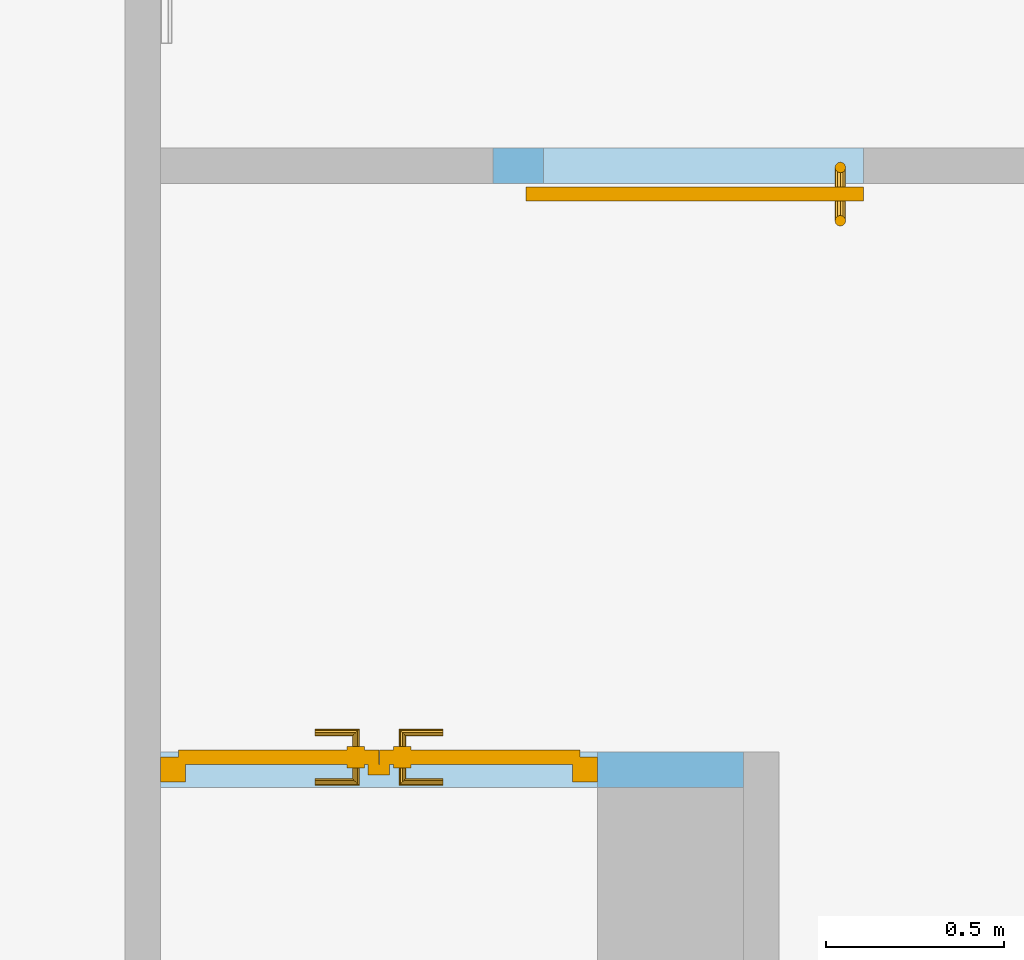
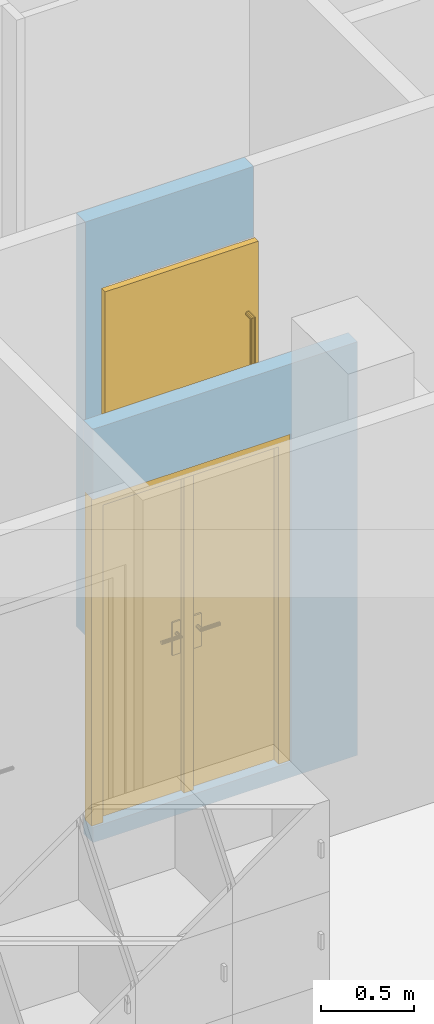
"""IFC4 building model written with IfcOpenShell, lengths in metres."""

from ifc_helpers import new_model, entity, si_unit, converted_unit, derived_unit, frame, frame_2d, origin, origin_with_axes, place, context, subcontext, project, spatial, polyline, rectangle, outline, extrude, faceted_brep, source, transform, mapped, material, layer, layer_set, layer_usage, element, fill, save


model = new_model("IFC4")

# Units and contexts
model_context = context("Model", 3, precision=1e-05, world=origin())
body_context = subcontext(model_context, "Body", "Model", "MODEL_VIEW")
ifc_project = project(units=[si_unit("LENGTHUNIT", "METRE"), si_unit("AREAUNIT", "SQUARE_METRE"), si_unit("VOLUMEUNIT", "CUBIC_METRE"), si_unit("MASSUNIT", "GRAM", prefix="KILO"), converted_unit("PLANEANGLEUNIT", "DEGREE", entity("IfcPlaneAngleMeasure", 0.0174532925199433), si_unit("PLANEANGLEUNIT", "RADIAN"), dimensions=[0, 0, 0, 0, 0, 0, 0]), derived_unit("THERMALTRANSMITTANCEUNIT", [(si_unit("POWERUNIT", "WATT"), 1), (si_unit("THERMODYNAMICTEMPERATUREUNIT", "KELVIN"), -1), (si_unit("LENGTHUNIT", "METRE"), -2)]), derived_unit("VOLUMETRICFLOWRATEUNIT", [(si_unit("LENGTHUNIT", "METRE"), 3), (converted_unit("TIMEUNIT", "hour", entity("IfcTimeMeasure", 3600.0), si_unit("TIMEUNIT", "SECOND"), dimensions=[0, 0, 1, 0, 0, 0, 0]), -1), (si_unit("LENGTHUNIT", "METRE"), -1)])], contexts=[model_context])

# Building, storeys
building_placement = place(None, origin())
building = spatial("IfcBuilding", under=ifc_project, at=building_placement, Name="HABITATGE PLURIFAMILIAR", CompositionType="ELEMENT")
storey_1_placement = place(building_placement, frame((0.0, 0.0, 15.28)))
storey_1 = spatial("IfcBuildingStorey", under=building, at=storey_1_placement, Name="PLANTA QUARTA", CompositionType="ELEMENT", Elevation=15.28)
storey_2_placement = place(storey_1_placement, frame((0.0, 0.0, 12.27)))
storey_2 = spatial("IfcBuildingStorey", under=storey_1, at=storey_2_placement, Name="NOU", CompositionType="PARTIAL")

# Wall, opening, door
ifc_material_1 = material()
ifc_layer_1 = layer(ifc_material_1, 0.1)
ifc_layer_set_1 = layer_set([ifc_layer_1])
ifc_layer_usage_1 = layer_usage(ifc_layer_set_1, "AXIS2", "POSITIVE", 0.0)
wall_1_placement = place(storey_2_placement, frame((406.076984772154, 24.2294598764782, -12.37), z_axis=(0.0, 0.0, 1.0), x_axis=(-1.0, 0.0, 0.0)))
wall_1 = element("IfcWall", 1, at=wall_1_placement, inside=storey_2, material=ifc_layer_usage_1, Name="Evans P4", context=body_context, shape_type="SweptSolid", body=[
    extrude(rectangle(XDim=1.63999999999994, YDim=0.1, at=frame_2d((0.819999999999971, 0.05), x_axis=(1.0, 0.0))), origin_with_axes(), (0.0, 0.0, 1.0), 2.71),
])
opening_1_placement = place(wall_1_placement, frame((1.63999999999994, 0.1, 0.1), z_axis=(0.0, -1.0, 0.0), x_axis=(0.0, 0.0, 1.0)))
opening_1 = element("IfcOpeningElement", 2, at=opening_1_placement, cuts=wall_1, Name="Vano porta P4", ObjectType="Opening", context=body_context, shape_type="SweptSolid", body=[
    extrude(outline(polyline([(2.15, 1.22999999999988), (2.15, 0.0), (0.0, 0.0), (0.0, 1.22999999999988), (2.15, 1.22999999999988)])), origin_with_axes(), (0.0, 0.0, 1.0), 0.1),
])
shared_shape_1 = source(origin_with_axes(), body_context, "Body", "Brep", [
    faceted_brep([(0.0, 0.07, 2.15), (0.0, 0.07, 0.0), (0.07, 0.07, 0.0), (0.07, 0.07, 2.15), (0.0, 0.0, 0.0), (0.0, 0.0, 2.15), (0.07, 0.0, 2.15), (0.07, 0.0, 0.0)], [[[0, 1, 2, 3]], [[4, 5, 6, 7]], [[1, 0, 5, 4]], [[2, 1, 4, 7]], [[3, 2, 7, 6]], [[0, 3, 6, 5]]], orient=[[False], [False], [False], [False], [False], [False]]),
    faceted_brep([(1.15999999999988, 0.07, 2.15), (1.15999999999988, 0.07, 0.0), (1.22999999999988, 0.07, 0.0), (1.22999999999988, 0.07, 2.15), (1.15999999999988, 0.0, 0.0), (1.15999999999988, 0.0, 2.15), (1.22999999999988, 0.0, 2.15), (1.22999999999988, 0.0, 0.0)], [[[0, 1, 2, 3]], [[4, 5, 6, 7]], [[1, 0, 5, 4]], [[2, 1, 4, 7]], [[3, 2, 7, 6]], [[0, 3, 6, 5]]], orient=[[False], [False], [False], [False], [False], [False]]),
    faceted_brep([(0.07, 0.07, 2.15), (0.07, 0.07, 2.08), (1.15999999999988, 0.07, 2.08), (1.15999999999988, 0.07, 2.15), (0.07, 0.0, 2.08), (0.07, 0.0, 2.15), (1.15999999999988, 0.0, 2.15), (1.15999999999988, 0.0, 2.08)], [[[0, 1, 2, 3]], [[4, 5, 6, 7]], [[1, 0, 5, 4]], [[2, 1, 4, 7]], [[3, 2, 7, 6]], [[0, 3, 6, 5]]], orient=[[False], [False], [False], [False], [False], [False]]),
    faceted_brep([(0.05, 0.09, 2.1), (0.05, 0.09, 0.0), (0.614499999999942, 0.09, 0.0), (0.614499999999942, 0.09, 2.1), (0.05, 0.05, 0.0), (0.05, 0.05, 2.1), (0.614499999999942, 0.05, 2.1), (0.614499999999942, 0.05, 0.0)], [[[0, 1, 2, 3]], [[4, 5, 6, 7]], [[1, 0, 5, 4]], [[2, 1, 4, 7]], [[3, 2, 7, 6]], [[0, 3, 6, 5]]], orient=[[False], [False], [False], [False], [False], [False]]),
    faceted_brep([(0.584499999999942, 0.05, 2.08), (0.584499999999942, 0.05, 0.0), (0.644499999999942, 0.05, 0.0), (0.644499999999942, 0.05, 2.08), (0.584499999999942, 0.02, 0.0), (0.584499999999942, 0.02, 2.08), (0.644499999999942, 0.02, 2.08), (0.644499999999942, 0.02, 0.0)], [[[0, 1, 2, 3]], [[4, 5, 6, 7]], [[1, 0, 5, 4]], [[2, 1, 4, 7]], [[3, 2, 7, 6]], [[0, 3, 6, 5]]], orient=[[False], [False], [False], [False], [False], [False]]),
    faceted_brep([(0.524499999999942, 0.05, 1.125), (0.524499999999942, 0.05, 0.91), (0.574499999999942, 0.05, 0.91), (0.574499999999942, 0.05, 1.125), (0.524499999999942, 0.04, 0.91), (0.524499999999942, 0.04, 1.125), (0.574499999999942, 0.04, 1.125), (0.574499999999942, 0.04, 0.91)], [[[0, 1, 2, 3]], [[4, 5, 6, 7]], [[1, 0, 5, 4]], [[2, 1, 4, 7]], [[3, 2, 7, 6]], [[0, 3, 6, 5]]], orient=[[False], [False], [False], [False], [False], [False]]),
    faceted_brep([(0.549499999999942, 0.04, 1.06), (0.544499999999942, 0.04, 1.05866025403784), (0.540839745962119, 0.04, 1.055), (0.539499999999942, 0.04, 1.05), (0.540839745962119, 0.04, 1.045), (0.544499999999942, 0.04, 1.04133974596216), (0.549499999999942, 0.04, 1.04), (0.554499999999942, 0.04, 1.04133974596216), (0.558160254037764, 0.04, 1.045), (0.559499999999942, 0.04, 1.05), (0.558160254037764, 0.04, 1.055), (0.554499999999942, 0.04, 1.05866025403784), (0.554499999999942, -0.005, 1.05866025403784), (0.549499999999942, 0.0, 1.06), (0.558160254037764, -0.00866025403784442, 1.055), (0.559499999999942, -0.01, 1.05), (0.558160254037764, -0.00866025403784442, 1.045), (0.554499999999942, -0.005, 1.04133974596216), (0.549499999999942, 0.0, 1.04), (0.544499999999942, 0.005, 1.04133974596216), (0.540839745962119, 0.00866025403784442, 1.045), (0.539499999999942, 0.01, 1.05), (0.540839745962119, 0.00866025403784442, 1.055), (0.544499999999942, 0.005, 1.05866025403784), (0.434499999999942, 0.0, 1.06), (0.434499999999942, -0.005, 1.05866025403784), (0.434499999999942, -0.00866025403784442, 1.055), (0.434499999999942, -0.01, 1.05), (0.434499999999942, -0.00866025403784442, 1.045), (0.434499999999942, -0.005, 1.04133974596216), (0.434499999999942, 0.0, 1.04), (0.434499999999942, 0.005, 1.04133974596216), (0.434499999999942, 0.00866025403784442, 1.045), (0.434499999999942, 0.01, 1.05), (0.434499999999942, 0.00866025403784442, 1.055), (0.434499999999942, 0.005, 1.05866025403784)], [[[0, 1, 2, 3, 4, 5, 6, 7, 8, 9, 10, 11]], [[0, 11, 12, 13]], [[11, 10, 14, 12]], [[10, 9, 15, 14]], [[9, 8, 16, 15]], [[8, 7, 17, 16]], [[7, 6, 18, 17]], [[6, 5, 19, 18]], [[5, 4, 20, 19]], [[4, 3, 21, 20]], [[3, 2, 22, 21]], [[2, 1, 23, 22]], [[1, 0, 13, 23]], [[24, 25, 26, 27, 28, 29, 30, 31, 32, 33, 34, 35]], [[13, 12, 25, 24]], [[12, 14, 26, 25]], [[14, 15, 27, 26]], [[15, 16, 28, 27]], [[16, 17, 29, 28]], [[17, 18, 30, 29]], [[18, 19, 31, 30]], [[19, 20, 32, 31]], [[20, 21, 33, 32]], [[21, 22, 34, 33]], [[22, 23, 35, 34]], [[23, 13, 24, 35]]], orient=[[False], [False], [False], [False], [False], [False], [False], [False], [False], [False], [False], [False], [False], [False], [False], [False], [False], [False], [False], [False], [False], [False], [False], [False], [False], [False]]),
    faceted_brep([(0.524499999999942, 0.09, 1.125), (0.574499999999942, 0.09, 1.125), (0.574499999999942, 0.09, 0.91), (0.524499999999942, 0.09, 0.91), (0.524499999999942, 0.1, 0.91), (0.574499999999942, 0.1, 0.91), (0.574499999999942, 0.1, 1.125), (0.524499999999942, 0.1, 1.125)], [[[0, 1, 2, 3]], [[4, 5, 6, 7]], [[3, 4, 7, 0]], [[2, 5, 4, 3]], [[1, 6, 5, 2]], [[0, 7, 6, 1]]], orient=[[False], [False], [False], [False], [False], [False]]),
    faceted_brep([(0.549499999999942, 0.1, 1.06), (0.554499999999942, 0.1, 1.05866025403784), (0.558160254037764, 0.1, 1.055), (0.559499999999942, 0.1, 1.05), (0.558160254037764, 0.1, 1.045), (0.554499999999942, 0.1, 1.04133974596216), (0.549499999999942, 0.1, 1.04), (0.544499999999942, 0.1, 1.04133974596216), (0.540839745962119, 0.1, 1.045), (0.539499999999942, 0.1, 1.05), (0.540839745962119, 0.1, 1.055), (0.544499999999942, 0.1, 1.05866025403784), (0.549499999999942, 0.14, 1.06), (0.554499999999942, 0.145, 1.05866025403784), (0.558160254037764, 0.148660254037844, 1.055), (0.559499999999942, 0.15, 1.05), (0.558160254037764, 0.148660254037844, 1.045), (0.554499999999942, 0.145, 1.04133974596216), (0.549499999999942, 0.14, 1.04), (0.544499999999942, 0.135, 1.04133974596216), (0.540839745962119, 0.131339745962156, 1.045), (0.539499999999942, 0.13, 1.05), (0.540839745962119, 0.131339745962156, 1.055), (0.544499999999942, 0.135, 1.05866025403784), (0.434499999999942, 0.14, 1.06), (0.434499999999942, 0.135, 1.05866025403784), (0.434499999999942, 0.131339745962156, 1.055), (0.434499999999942, 0.13, 1.05), (0.434499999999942, 0.131339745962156, 1.045), (0.434499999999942, 0.135, 1.04133974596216), (0.434499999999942, 0.14, 1.04), (0.434499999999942, 0.145, 1.04133974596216), (0.434499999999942, 0.148660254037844, 1.045), (0.434499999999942, 0.15, 1.05), (0.434499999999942, 0.148660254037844, 1.055), (0.434499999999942, 0.145, 1.05866025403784)], [[[0, 1, 2, 3, 4, 5, 6, 7, 8, 9, 10, 11]], [[0, 12, 13, 1]], [[1, 13, 14, 2]], [[2, 14, 15, 3]], [[3, 15, 16, 4]], [[4, 16, 17, 5]], [[5, 17, 18, 6]], [[6, 18, 19, 7]], [[7, 19, 20, 8]], [[8, 20, 21, 9]], [[9, 21, 22, 10]], [[10, 22, 23, 11]], [[11, 23, 12, 0]], [[24, 25, 26, 27, 28, 29, 30, 31, 32, 33, 34, 35]], [[12, 24, 35, 13]], [[13, 35, 34, 14]], [[14, 34, 33, 15]], [[15, 33, 32, 16]], [[16, 32, 31, 17]], [[17, 31, 30, 18]], [[18, 30, 29, 19]], [[19, 29, 28, 20]], [[20, 28, 27, 21]], [[21, 27, 26, 22]], [[22, 26, 25, 23]], [[23, 25, 24, 12]]], orient=[[False], [False], [False], [False], [False], [False], [False], [False], [False], [False], [False], [False], [False], [False], [False], [False], [False], [False], [False], [False], [False], [False], [False], [False], [False], [False]]),
    faceted_brep([(0.615499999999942, 0.09, 2.1), (0.615499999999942, 0.09, 0.0), (1.17999999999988, 0.09, 0.0), (1.17999999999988, 0.09, 2.1), (0.615499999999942, 0.05, 0.0), (0.615499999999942, 0.05, 2.1), (1.17999999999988, 0.05, 2.1), (1.17999999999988, 0.05, 0.0)], [[[0, 1, 2, 3]], [[4, 5, 6, 7]], [[1, 0, 5, 4]], [[2, 1, 4, 7]], [[3, 2, 7, 6]], [[0, 3, 6, 5]]], orient=[[False], [False], [False], [False], [False], [False]]),
    faceted_brep([(0.655499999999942, 0.05, 1.125), (0.655499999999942, 0.05, 0.91), (0.705499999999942, 0.05, 0.91), (0.705499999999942, 0.05, 1.125), (0.655499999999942, 0.04, 0.91), (0.655499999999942, 0.04, 1.125), (0.705499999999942, 0.04, 1.125), (0.705499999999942, 0.04, 0.91)], [[[0, 1, 2, 3]], [[4, 5, 6, 7]], [[1, 0, 5, 4]], [[2, 1, 4, 7]], [[3, 2, 7, 6]], [[0, 3, 6, 5]]], orient=[[False], [False], [False], [False], [False], [False]]),
    faceted_brep([(0.680499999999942, 0.04, 1.06), (0.675499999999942, 0.04, 1.05866025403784), (0.671839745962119, 0.04, 1.055), (0.670499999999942, 0.04, 1.05), (0.671839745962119, 0.04, 1.045), (0.675499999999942, 0.04, 1.04133974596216), (0.680499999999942, 0.04, 1.04), (0.685499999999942, 0.04, 1.04133974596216), (0.689160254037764, 0.04, 1.045), (0.690499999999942, 0.04, 1.05), (0.689160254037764, 0.04, 1.055), (0.685499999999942, 0.04, 1.05866025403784), (0.680499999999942, 0.0, 1.06), (0.675499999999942, -0.005, 1.05866025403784), (0.671839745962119, -0.00866025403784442, 1.055), (0.670499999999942, -0.01, 1.05), (0.671839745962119, -0.00866025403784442, 1.045), (0.675499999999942, -0.005, 1.04133974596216), (0.680499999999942, 0.0, 1.04), (0.685499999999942, 0.005, 1.04133974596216), (0.689160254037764, 0.00866025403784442, 1.045), (0.690499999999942, 0.01, 1.05), (0.689160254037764, 0.00866025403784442, 1.055), (0.685499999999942, 0.005, 1.05866025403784), (0.795499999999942, 0.0, 1.06), (0.795499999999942, 0.005, 1.05866025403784), (0.795499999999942, 0.00866025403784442, 1.055), (0.795499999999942, 0.01, 1.05), (0.795499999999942, 0.00866025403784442, 1.045), (0.795499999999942, 0.005, 1.04133974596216), (0.795499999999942, 0.0, 1.04), (0.795499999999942, -0.005, 1.04133974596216), (0.795499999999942, -0.00866025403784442, 1.045), (0.795499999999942, -0.01, 1.05), (0.795499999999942, -0.00866025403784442, 1.055), (0.795499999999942, -0.005, 1.05866025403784)], [[[0, 1, 2, 3, 4, 5, 6, 7, 8, 9, 10, 11]], [[0, 12, 13, 1]], [[1, 13, 14, 2]], [[2, 14, 15, 3]], [[3, 15, 16, 4]], [[4, 16, 17, 5]], [[5, 17, 18, 6]], [[6, 18, 19, 7]], [[7, 19, 20, 8]], [[8, 20, 21, 9]], [[9, 21, 22, 10]], [[10, 22, 23, 11]], [[11, 23, 12, 0]], [[24, 25, 26, 27, 28, 29, 30, 31, 32, 33, 34, 35]], [[12, 24, 35, 13]], [[13, 35, 34, 14]], [[14, 34, 33, 15]], [[15, 33, 32, 16]], [[16, 32, 31, 17]], [[17, 31, 30, 18]], [[18, 30, 29, 19]], [[19, 29, 28, 20]], [[20, 28, 27, 21]], [[21, 27, 26, 22]], [[22, 26, 25, 23]], [[23, 25, 24, 12]]], orient=[[False], [False], [False], [False], [False], [False], [False], [False], [False], [False], [False], [False], [False], [False], [False], [False], [False], [False], [False], [False], [False], [False], [False], [False], [False], [False]]),
    faceted_brep([(0.655499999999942, 0.09, 1.125), (0.705499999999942, 0.09, 1.125), (0.705499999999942, 0.09, 0.91), (0.655499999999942, 0.09, 0.91), (0.655499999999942, 0.1, 0.91), (0.705499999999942, 0.1, 0.91), (0.705499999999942, 0.1, 1.125), (0.655499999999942, 0.1, 1.125)], [[[0, 1, 2, 3]], [[4, 5, 6, 7]], [[3, 4, 7, 0]], [[2, 5, 4, 3]], [[1, 6, 5, 2]], [[0, 7, 6, 1]]], orient=[[False], [False], [False], [False], [False], [False]]),
    faceted_brep([(0.680499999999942, 0.1, 1.06), (0.685499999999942, 0.1, 1.05866025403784), (0.689160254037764, 0.1, 1.055), (0.690499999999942, 0.1, 1.05), (0.689160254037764, 0.1, 1.045), (0.685499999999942, 0.1, 1.04133974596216), (0.680499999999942, 0.1, 1.04), (0.675499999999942, 0.1, 1.04133974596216), (0.671839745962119, 0.1, 1.045), (0.670499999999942, 0.1, 1.05), (0.671839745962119, 0.1, 1.055), (0.675499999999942, 0.1, 1.05866025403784), (0.675499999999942, 0.145, 1.05866025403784), (0.680499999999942, 0.14, 1.06), (0.671839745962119, 0.148660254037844, 1.055), (0.670499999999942, 0.15, 1.05), (0.671839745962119, 0.148660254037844, 1.045), (0.675499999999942, 0.145, 1.04133974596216), (0.680499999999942, 0.14, 1.04), (0.685499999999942, 0.135, 1.04133974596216), (0.689160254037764, 0.131339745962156, 1.045), (0.690499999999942, 0.13, 1.05), (0.689160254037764, 0.131339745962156, 1.055), (0.685499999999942, 0.135, 1.05866025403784), (0.795499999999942, 0.14, 1.06), (0.795499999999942, 0.145, 1.05866025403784), (0.795499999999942, 0.148660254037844, 1.055), (0.795499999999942, 0.15, 1.05), (0.795499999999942, 0.148660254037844, 1.045), (0.795499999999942, 0.145, 1.04133974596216), (0.795499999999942, 0.14, 1.04), (0.795499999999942, 0.135, 1.04133974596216), (0.795499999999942, 0.131339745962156, 1.045), (0.795499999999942, 0.13, 1.05), (0.795499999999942, 0.131339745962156, 1.055), (0.795499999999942, 0.135, 1.05866025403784)], [[[0, 1, 2, 3, 4, 5, 6, 7, 8, 9, 10, 11]], [[0, 11, 12, 13]], [[11, 10, 14, 12]], [[10, 9, 15, 14]], [[9, 8, 16, 15]], [[8, 7, 17, 16]], [[7, 6, 18, 17]], [[6, 5, 19, 18]], [[5, 4, 20, 19]], [[4, 3, 21, 20]], [[3, 2, 22, 21]], [[2, 1, 23, 22]], [[1, 0, 13, 23]], [[24, 25, 26, 27, 28, 29, 30, 31, 32, 33, 34, 35]], [[13, 12, 25, 24]], [[12, 14, 26, 25]], [[14, 15, 27, 26]], [[15, 16, 28, 27]], [[16, 17, 29, 28]], [[17, 18, 30, 29]], [[18, 19, 31, 30]], [[19, 20, 32, 31]], [[20, 21, 33, 32]], [[21, 22, 34, 33]], [[22, 23, 35, 34]], [[23, 13, 24, 35]]], orient=[[False], [False], [False], [False], [False], [False], [False], [False], [False], [False], [False], [False], [False], [False], [False], [False], [False], [False], [False], [False], [False], [False], [False], [False], [False], [False]]),
])
door_1_placement = place(opening_1_placement, frame((0.0, 0.0, 0.015), z_axis=(1.0, 0.0, 0.0), x_axis=(0.0, 1.0, 0.0)))
door_1 = element("IfcDoor", 3, at=door_1_placement, inside=storey_2, Name="Porta P4", OperationType="USERDEFINED", OverallHeight=2.15, OverallWidth=1.23, PredefinedType="DOOR", context=body_context, shape_type="MappedRepresentation", body=[
    mapped(shared_shape_1, transform((0.0, 0.0, 0.0), x_axis=(1.0, 0.0, 0.0), y_axis=(0.0, 1.0, 0.0), z_axis=(0.0, 0.0, 1.0), scale=1.0)),
])
fill(opening_1, door_1)

ifc_material_2 = material()
ifc_layer_2 = layer(ifc_material_2, 0.1)
ifc_layer_set_2 = layer_set([ifc_layer_2])
ifc_layer_usage_2 = layer_usage(ifc_layer_set_2, "AXIS2", "POSITIVE", 0.0)
wall_2_placement = place(storey_2_placement, frame((405.373114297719, 25.8294598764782, -12.37)))
wall_2 = element("IfcWall", 4, at=wall_2_placement, inside=storey_2, material=ifc_layer_usage_2, Name="Evans P4", context=body_context, shape_type="SweptSolid", body=[
    extrude(rectangle(XDim=1.04208327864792, YDim=0.1, at=frame_2d((0.521041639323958, 0.05), x_axis=(1.0, 0.0))), origin_with_axes(), (0.0, 0.0, 1.0), 2.71),
])
opening_2_placement = place(wall_2_placement, frame((1.04208327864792, 0.1, 0.1), z_axis=(0.0, -1.0, 0.0), x_axis=(0.0, 0.0, 1.0)))
opening_2 = element("IfcOpeningElement", 5, at=opening_2_placement, cuts=wall_2, Name="Vano porta P4", ObjectType="Opening", context=body_context, shape_type="SweptSolid", body=[
    extrude(outline(polyline([(2.15, 0.9), (2.15, 0.0), (0.0, 0.0), (0.0, 0.9), (2.15, 0.9)])), origin_with_axes(), (0.0, 0.0, 1.0), 0.1),
])
shared_shape_2 = source(origin_with_axes(), body_context, "Body", "Brep", [
    faceted_brep([(0.0, 0.15, 2.15), (0.0, 0.15, 0.0), (0.95, 0.15, 0.0), (0.95, 0.15, 2.15), (0.0, 0.11, 0.0), (0.0, 0.11, 2.15), (0.95, 0.11, 2.15), (0.95, 0.11, 0.0)], [[[0, 1, 2, 3]], [[4, 5, 6, 7]], [[1, 0, 5, 4]], [[2, 1, 4, 7]], [[3, 2, 7, 6]], [[0, 3, 6, 5]]], orient=[[False], [False], [False], [False], [False], [False]]),
    faceted_brep([(0.08, 0.11, 1.7), (0.0779903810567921, 0.11, 1.7075), (0.0725, 0.11, 1.71299038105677), (0.065, 0.11, 1.715), (0.0575, 0.11, 1.71299038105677), (0.0520096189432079, 0.11, 1.7075), (0.05, 0.11, 1.7), (0.0520096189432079, 0.11, 1.6925), (0.0575, 0.11, 1.68700961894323), (0.065, 0.11, 1.685), (0.0725, 0.11, 1.68700961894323), (0.0779903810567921, 0.11, 1.6925), (0.08, 0.055, 1.7), (0.0779903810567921, 0.0475, 1.7075), (0.0725, 0.0420096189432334, 1.71299038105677), (0.065, 0.04, 1.715), (0.0575, 0.0420096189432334, 1.71299038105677), (0.0520096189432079, 0.0475, 1.7075), (0.05, 0.055, 1.7), (0.0520096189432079, 0.0625, 1.6925), (0.0575, 0.0679903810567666, 1.68700961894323), (0.065, 0.07, 1.685), (0.0725, 0.0679903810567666, 1.68700961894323), (0.0779903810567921, 0.0625, 1.6925), (0.08, 0.055, 0.4), (0.0779903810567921, 0.0475, 0.3925), (0.0725, 0.0420096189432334, 0.387009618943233), (0.065, 0.04, 0.385), (0.0575, 0.0420096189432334, 0.387009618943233), (0.0520096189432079, 0.0475, 0.3925), (0.05, 0.055, 0.4), (0.0520096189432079, 0.0625, 0.4075), (0.0575, 0.0679903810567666, 0.412990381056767), (0.065, 0.07, 0.415), (0.0725, 0.0679903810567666, 0.412990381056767), (0.0779903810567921, 0.0625, 0.4075), (0.08, 0.11, 0.4), (0.0779903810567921, 0.11, 0.4075), (0.0725, 0.11, 0.412990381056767), (0.065, 0.11, 0.415), (0.0575, 0.11, 0.412990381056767), (0.0520096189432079, 0.11, 0.4075), (0.05, 0.11, 0.4), (0.0520096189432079, 0.11, 0.3925), (0.0575, 0.11, 0.387009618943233), (0.065, 0.11, 0.385), (0.0725, 0.11, 0.387009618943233), (0.0779903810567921, 0.11, 0.3925)], [[[0, 1, 2, 3, 4, 5, 6, 7, 8, 9, 10, 11]], [[0, 12, 13, 1]], [[1, 13, 14, 2]], [[2, 14, 15, 3]], [[3, 15, 16, 4]], [[4, 16, 17, 5]], [[5, 17, 18, 6]], [[6, 18, 19, 7]], [[7, 19, 20, 8]], [[8, 20, 21, 9]], [[9, 21, 22, 10]], [[10, 22, 23, 11]], [[11, 23, 12, 0]], [[12, 24, 25, 13]], [[13, 25, 26, 14]], [[14, 26, 27, 15]], [[15, 27, 28, 16]], [[16, 28, 29, 17]], [[17, 29, 30, 18]], [[18, 30, 31, 19]], [[19, 31, 32, 20]], [[20, 32, 33, 21]], [[21, 33, 34, 22]], [[22, 34, 35, 23]], [[23, 35, 24, 12]], [[36, 37, 38, 39, 40, 41, 42, 43, 44, 45, 46, 47]], [[24, 36, 47, 25]], [[25, 47, 46, 26]], [[26, 46, 45, 27]], [[27, 45, 44, 28]], [[28, 44, 43, 29]], [[29, 43, 42, 30]], [[30, 42, 41, 31]], [[31, 41, 40, 32]], [[32, 40, 39, 33]], [[33, 39, 38, 34]], [[34, 38, 37, 35]], [[35, 37, 36, 24]]], orient=[[False], [False], [False], [False], [False], [False], [False], [False], [False], [False], [False], [False], [False], [False], [False], [False], [False], [False], [False], [False], [False], [False], [False], [False], [False], [False], [False], [False], [False], [False], [False], [False], [False], [False], [False], [False], [False], [False]]),
    faceted_brep([(0.08, 0.15, 1.7), (0.0779903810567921, 0.15, 1.6925), (0.0725, 0.15, 1.68700961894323), (0.065, 0.15, 1.685), (0.0575, 0.15, 1.68700961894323), (0.0520096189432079, 0.15, 1.6925), (0.05, 0.15, 1.7), (0.0520096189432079, 0.15, 1.7075), (0.0575, 0.15, 1.71299038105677), (0.065, 0.15, 1.715), (0.0725, 0.15, 1.71299038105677), (0.0779903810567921, 0.15, 1.7075), (0.0779903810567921, 0.2125, 1.7075), (0.08, 0.205, 1.7), (0.0725, 0.217990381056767, 1.71299038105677), (0.065, 0.22, 1.715), (0.0575, 0.217990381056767, 1.71299038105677), (0.0520096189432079, 0.2125, 1.7075), (0.05, 0.205, 1.7), (0.0520096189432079, 0.1975, 1.6925), (0.0575, 0.192009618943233, 1.68700961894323), (0.065, 0.19, 1.685), (0.0725, 0.192009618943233, 1.68700961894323), (0.0779903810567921, 0.1975, 1.6925), (0.0779903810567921, 0.2125, 0.3925), (0.08, 0.205, 0.4), (0.0725, 0.217990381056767, 0.387009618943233), (0.065, 0.22, 0.385), (0.0575, 0.217990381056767, 0.387009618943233), (0.0520096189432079, 0.2125, 0.3925), (0.05, 0.205, 0.4), (0.0520096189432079, 0.1975, 0.4075), (0.0575, 0.192009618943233, 0.412990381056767), (0.065, 0.19, 0.415), (0.0725, 0.192009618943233, 0.412990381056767), (0.0779903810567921, 0.1975, 0.4075), (0.08, 0.15, 0.4), (0.0779903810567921, 0.15, 0.3925), (0.0725, 0.15, 0.387009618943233), (0.065, 0.15, 0.385), (0.0575, 0.15, 0.387009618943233), (0.0520096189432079, 0.15, 0.3925), (0.05, 0.15, 0.4), (0.0520096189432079, 0.15, 0.4075), (0.0575, 0.15, 0.412990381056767), (0.065, 0.15, 0.415), (0.0725, 0.15, 0.412990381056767), (0.0779903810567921, 0.15, 0.4075)], [[[0, 1, 2, 3, 4, 5, 6, 7, 8, 9, 10, 11]], [[0, 11, 12, 13]], [[11, 10, 14, 12]], [[10, 9, 15, 14]], [[9, 8, 16, 15]], [[8, 7, 17, 16]], [[7, 6, 18, 17]], [[6, 5, 19, 18]], [[5, 4, 20, 19]], [[4, 3, 21, 20]], [[3, 2, 22, 21]], [[2, 1, 23, 22]], [[1, 0, 13, 23]], [[13, 12, 24, 25]], [[12, 14, 26, 24]], [[14, 15, 27, 26]], [[15, 16, 28, 27]], [[16, 17, 29, 28]], [[17, 18, 30, 29]], [[18, 19, 31, 30]], [[19, 20, 32, 31]], [[20, 21, 33, 32]], [[21, 22, 34, 33]], [[22, 23, 35, 34]], [[23, 13, 25, 35]], [[36, 37, 38, 39, 40, 41, 42, 43, 44, 45, 46, 47]], [[25, 24, 37, 36]], [[24, 26, 38, 37]], [[26, 27, 39, 38]], [[27, 28, 40, 39]], [[28, 29, 41, 40]], [[29, 30, 42, 41]], [[30, 31, 43, 42]], [[31, 32, 44, 43]], [[32, 33, 45, 44]], [[33, 34, 46, 45]], [[34, 35, 47, 46]], [[35, 25, 36, 47]]], orient=[[False], [False], [False], [False], [False], [False], [False], [False], [False], [False], [False], [False], [False], [False], [False], [False], [False], [False], [False], [False], [False], [False], [False], [False], [False], [False], [False], [False], [False], [False], [False], [False], [False], [False], [False], [False], [False], [False]]),
])
door_2_placement = place(opening_2_placement, frame((0.0, 0.0, 0.0), z_axis=(1.0, 0.0, 0.0), x_axis=(0.0, 1.0, 0.0)))
door_2 = element("IfcDoor", 6, at=door_2_placement, inside=storey_2, Name="Porta P4", OperationType="USERDEFINED", OverallHeight=2.15, OverallWidth=0.9, PredefinedType="DOOR", context=body_context, shape_type="MappedRepresentation", body=[
    mapped(shared_shape_2, transform((0.0, 0.0, 0.0), x_axis=(1.0, 0.0, 0.0), y_axis=(0.0, 1.0, 0.0), z_axis=(0.0, 0.0, 1.0), scale=1.0)),
])
fill(opening_2, door_2)

save(model, "model.ifc")
